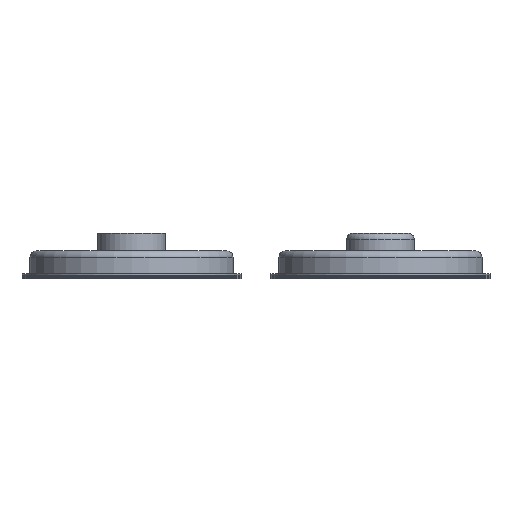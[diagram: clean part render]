
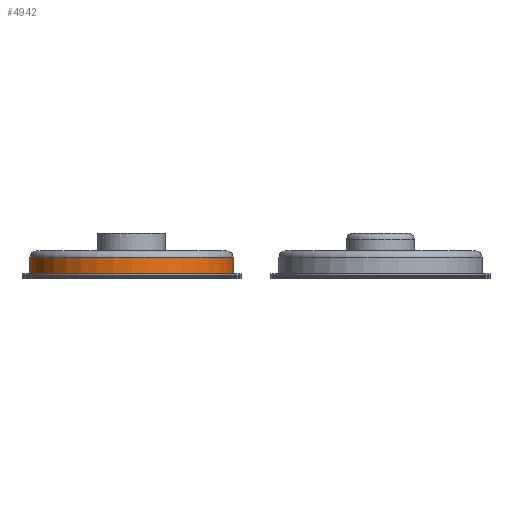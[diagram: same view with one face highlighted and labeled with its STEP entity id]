
A CAD part, top view. The second image highlights one B-rep face of the part: STEP entity #4942.
In plain terms, the highlighted cylindrical face has radius 397.383 mm (diameter 794.766 mm), a full revolution.
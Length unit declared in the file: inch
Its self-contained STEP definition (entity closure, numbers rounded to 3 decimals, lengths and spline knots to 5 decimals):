
#307=CIRCLE('',#5304,15.645);
#309=CIRCLE('',#5307,15.645);
#473=CYLINDRICAL_SURFACE('',#5306,15.645);
#555=FACE_BOUND('',#1177,.T.);
#820=FACE_OUTER_BOUND('',#1176,.T.);
#1176=EDGE_LOOP('',(#3729));
#1177=EDGE_LOOP('',(#3730));
#2572=VERTEX_POINT('',#7523);
#2574=VERTEX_POINT('',#7528);
#3056=EDGE_CURVE('',#2572,#2572,#307,.T.);
#3058=EDGE_CURVE('',#2574,#2574,#309,.T.);
#3729=ORIENTED_EDGE('',*,*,#3058,.F.);
#3730=ORIENTED_EDGE('',*,*,#3056,.F.);
#4942=ADVANCED_FACE('',(#820,#555),#473,.T.);
#5304=AXIS2_PLACEMENT_3D('',#7524,#6050,#6051);
#5306=AXIS2_PLACEMENT_3D('',#7527,#6054,#6055);
#5307=AXIS2_PLACEMENT_3D('',#7529,#6056,#6057);
#6050=DIRECTION('center_axis',(0.,1.,0.));
#6051=DIRECTION('ref_axis',(-1.,0.,0.));
#6054=DIRECTION('center_axis',(0.,1.,0.));
#6055=DIRECTION('ref_axis',(-1.,0.,0.));
#6056=DIRECTION('center_axis',(0.,-1.,0.));
#6057=DIRECTION('ref_axis',(-1.,0.,0.));
#7523=CARTESIAN_POINT('',(-3.525,52.09,307.125));
#7524=CARTESIAN_POINT('Origin',(-19.17,52.09,307.125));
#7527=CARTESIAN_POINT('Origin',(-19.17,49.54,307.125));
#7528=CARTESIAN_POINT('',(-3.525,49.54,307.125));
#7529=CARTESIAN_POINT('Origin',(-19.17,49.54,307.125));
